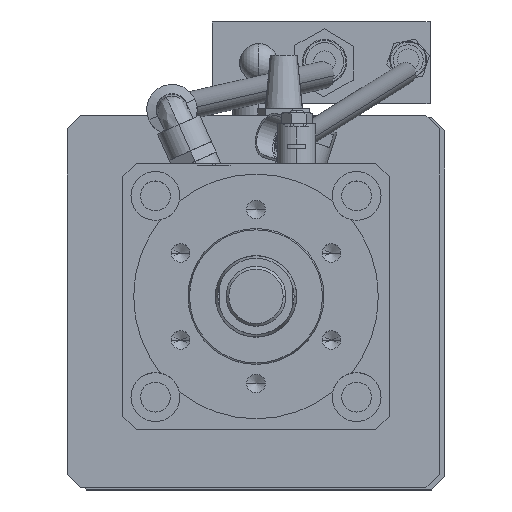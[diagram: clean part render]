
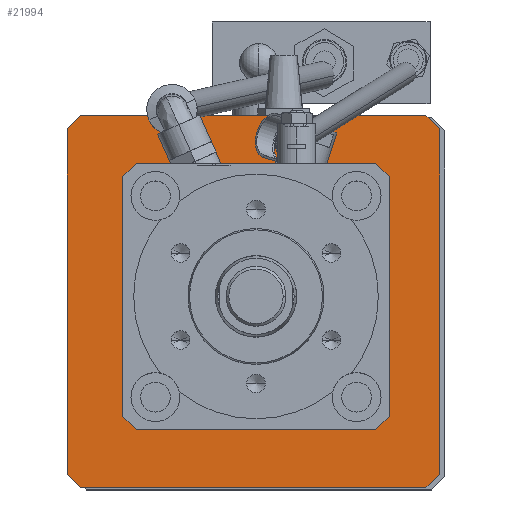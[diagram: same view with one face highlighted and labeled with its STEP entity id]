
A CAD part, top view. The second image highlights one B-rep face of the part: STEP entity #21994.
In plain terms, the highlighted planar face has unit normal (0, 0, 1).
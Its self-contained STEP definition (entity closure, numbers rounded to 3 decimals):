
#292 = CARTESIAN_POINT ( 'NONE',  ( 718.931, -1988.683, -976.298 ) ) ;
#607 = VERTEX_POINT ( 'NONE', #292 ) ;
#1183 = DIRECTION ( 'NONE',  ( -1., 0., 0. ) ) ;
#1622 = CARTESIAN_POINT ( 'NONE',  ( 586.931, -2120.683, -976.298 ) ) ;
#2254 = DIRECTION ( 'NONE',  ( 1., 0., 0. ) ) ;
#2496 = EDGE_CURVE ( 'NONE', #5507, #9875, #9915, .T. ) ;
#3158 = VERTEX_POINT ( 'NONE', #7153 ) ;
#4378 = EDGE_CURVE ( 'NONE', #15713, #15227, #25789, .T. ) ;
#4414 = CARTESIAN_POINT ( 'NONE',  ( 718.931, -1983.683, -976.298 ) ) ;
#4448 = VECTOR ( 'NONE', #4650, 1000. ) ;
#4650 = DIRECTION ( 'NONE',  ( 0., -1., 0. ) ) ;
#5507 = VERTEX_POINT ( 'NONE', #17248 ) ;
#5835 = EDGE_LOOP ( 'NONE', ( #9517, #24512, #20215, #9938, #20176, #10874, #20947, #18148 ) ) ;
#5853 = CARTESIAN_POINT ( 'NONE',  ( 718.931, -2120.683, -976.298 ) ) ;
#6560 = VECTOR ( 'NONE', #16358, 1000. ) ;
#7153 = CARTESIAN_POINT ( 'NONE',  ( 718.931, -2115.683, -976.298 ) ) ;
#7564 = CARTESIAN_POINT ( 'NONE',  ( 713.931, -1983.683, -976.298 ) ) ;
#8651 = DIRECTION ( 'NONE',  ( -0.707, -0.707, 0. ) ) ;
#9062 = CARTESIAN_POINT ( 'NONE',  ( 581.931, -2115.683, -976.298 ) ) ;
#9517 = ORIENTED_EDGE ( 'NONE', *, *, #2496, .F. ) ;
#9857 = VECTOR ( 'NONE', #22268, 1000. ) ;
#9875 = VERTEX_POINT ( 'NONE', #1622 ) ;
#9915 = LINE ( 'NONE', #5853, #9857 ) ;
#9938 = ORIENTED_EDGE ( 'NONE', *, *, #21326, .T. ) ;
#10874 = ORIENTED_EDGE ( 'NONE', *, *, #20905, .T. ) ;
#10993 = EDGE_CURVE ( 'NONE', #5507, #3158, #25588, .T. ) ;
#11283 = EDGE_CURVE ( 'NONE', #15713, #9875, #11324, .T. ) ;
#11298 = VERTEX_POINT ( 'NONE', #7564 ) ;
#11324 = LINE ( 'NONE', #9062, #14042 ) ;
#11792 = VECTOR ( 'NONE', #26055, 1000. ) ;
#12235 = LINE ( 'NONE', #4414, #19161 ) ;
#14042 = VECTOR ( 'NONE', #23808, 1000. ) ;
#14723 = LINE ( 'NONE', #18998, #4448 ) ;
#15227 = VERTEX_POINT ( 'NONE', #23680 ) ;
#15580 = CARTESIAN_POINT ( 'NONE',  ( 586.931, -1983.683, -976.298 ) ) ;
#15645 = DIRECTION ( 'NONE',  ( 0.707, 0.707, 0. ) ) ;
#15713 = VERTEX_POINT ( 'NONE', #23126 ) ;
#15849 = PLANE ( 'NONE',  #20747 ) ;
#16358 = DIRECTION ( 'NONE',  ( -0.707, 0.707, 0. ) ) ;
#17248 = CARTESIAN_POINT ( 'NONE',  ( 713.931, -2120.683, -976.298 ) ) ;
#17854 = CARTESIAN_POINT ( 'NONE',  ( 581.931, -1983.683, -976.298 ) ) ;
#18148 = ORIENTED_EDGE ( 'NONE', *, *, #11283, .T. ) ;
#18243 = LINE ( 'NONE', #20388, #6560 ) ;
#18821 = CARTESIAN_POINT ( 'NONE',  ( 586.931, -1983.683, -976.298 ) ) ;
#18841 = EDGE_CURVE ( 'NONE', #607, #3158, #14723, .T. ) ;
#18998 = CARTESIAN_POINT ( 'NONE',  ( 718.931, -1983.683, -976.298 ) ) ;
#19161 = VECTOR ( 'NONE', #2254, 1000. ) ;
#19591 = DIRECTION ( 'NONE',  ( 0., 0., -1. ) ) ;
#20176 = ORIENTED_EDGE ( 'NONE', *, *, #24785, .F. ) ;
#20215 = ORIENTED_EDGE ( 'NONE', *, *, #18841, .F. ) ;
#20388 = CARTESIAN_POINT ( 'NONE',  ( 718.931, -1988.683, -976.298 ) ) ;
#20747 = AXIS2_PLACEMENT_3D ( 'NONE', #25781, #19591, #1183 ) ;
#20905 = EDGE_CURVE ( 'NONE', #23389, #15227, #25013, .T. ) ;
#20947 = ORIENTED_EDGE ( 'NONE', *, *, #4378, .F. ) ;
#21326 = EDGE_CURVE ( 'NONE', #607, #11298, #18243, .T. ) ;
#21696 = VECTOR ( 'NONE', #15645, 1000. ) ;
#21973 = VECTOR ( 'NONE', #8651, 1000. ) ;
#21994 = ADVANCED_FACE ( 'NONE', ( #26046 ), #15849, .F. ) ;
#22268 = DIRECTION ( 'NONE',  ( -1., 0., 0. ) ) ;
#23126 = CARTESIAN_POINT ( 'NONE',  ( 581.931, -2115.683, -976.298 ) ) ;
#23389 = VERTEX_POINT ( 'NONE', #15580 ) ;
#23680 = CARTESIAN_POINT ( 'NONE',  ( 581.931, -1988.683, -976.298 ) ) ;
#23808 = DIRECTION ( 'NONE',  ( 0.707, -0.707, 0. ) ) ;
#24512 = ORIENTED_EDGE ( 'NONE', *, *, #10993, .T. ) ;
#24785 = EDGE_CURVE ( 'NONE', #23389, #11298, #12235, .T. ) ;
#25013 = LINE ( 'NONE', #18821, #21973 ) ;
#25588 = LINE ( 'NONE', #25846, #21696 ) ;
#25781 = CARTESIAN_POINT ( 'NONE',  ( 663.931, -2565.966, -976.298 ) ) ;
#25789 = LINE ( 'NONE', #17854, #11792 ) ;
#25846 = CARTESIAN_POINT ( 'NONE',  ( 713.931, -2120.683, -976.298 ) ) ;
#26046 = FACE_OUTER_BOUND ( 'NONE', #5835, .T. ) ;
#26055 = DIRECTION ( 'NONE',  ( 0., 1., 0. ) ) ;
